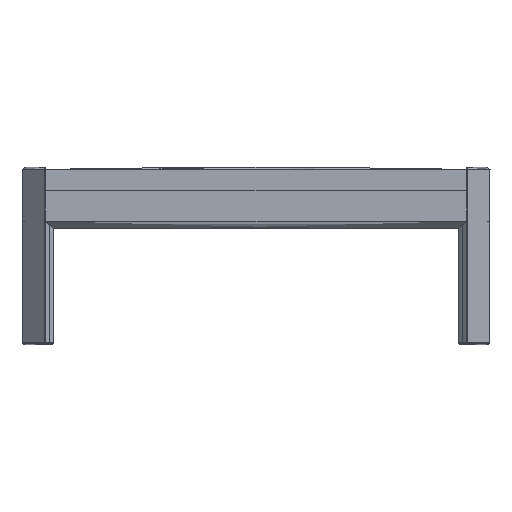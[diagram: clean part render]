
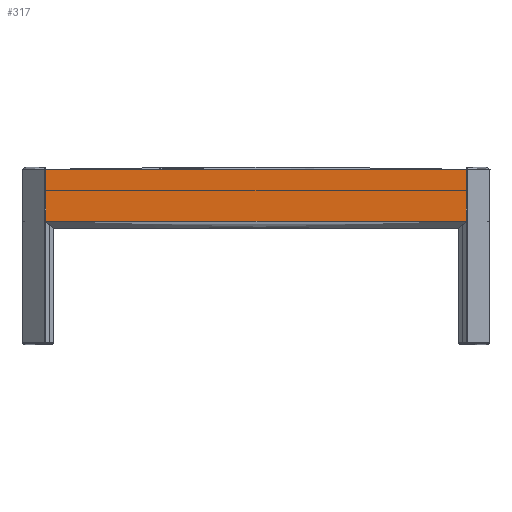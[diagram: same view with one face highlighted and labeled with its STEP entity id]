
A CAD part, front view. The second image highlights one B-rep face of the part: STEP entity #317.
In plain terms, the highlighted planar face has unit normal (0, -1, 0).
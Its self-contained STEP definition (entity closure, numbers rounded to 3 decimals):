
#317=ADVANCED_FACE('',(#629),#4739,.T.);
#629=FACE_OUTER_BOUND('',#945,.T.);
#945=EDGE_LOOP('',(#1835,#1836,#1837,#1838,#1839,#1840));
#1835=ORIENTED_EDGE('',*,*,#3002,.T.);
#1836=ORIENTED_EDGE('',*,*,#2994,.T.);
#1837=ORIENTED_EDGE('',*,*,#2974,.F.);
#1838=ORIENTED_EDGE('',*,*,#2988,.F.);
#1839=ORIENTED_EDGE('',*,*,#2995,.F.);
#1840=ORIENTED_EDGE('',*,*,#3007,.T.);
#2974=EDGE_CURVE('',#4363,#4364,#3970,.T.);
#2988=EDGE_CURVE('',#4376,#4363,#3980,.T.);
#2994=EDGE_CURVE('',#4385,#4364,#3611,.T.);
#2995=EDGE_CURVE('',#4379,#4376,#3983,.T.);
#3002=EDGE_CURVE('',#4384,#4385,#3987,.T.);
#3007=EDGE_CURVE('',#4379,#4384,#3991,.T.);
#3611=(
BOUNDED_CURVE()
B_SPLINE_CURVE(1,(#7173,#7174),.UNSPECIFIED.,.F.,.F.)
B_SPLINE_CURVE_WITH_KNOTS((2,2),(0.,818.4),.UNSPECIFIED.)
CURVE()
GEOMETRIC_REPRESENTATION_ITEM()
RATIONAL_B_SPLINE_CURVE((1.,1.))
REPRESENTATION_ITEM('')
);
#3970=B_SPLINE_CURVE_WITH_KNOTS('',1,(#7098,#7099),.UNSPECIFIED.,.F.,.F.,
(2,2),(0.,100.963),.UNSPECIFIED.);
#3980=B_SPLINE_CURVE_WITH_KNOTS('',1,(#7161,#7162),.UNSPECIFIED.,.F.,.F.,
(2,2),(0.,0.017),.UNSPECIFIED.);
#3983=B_SPLINE_CURVE_WITH_KNOTS('',1,(#7175,#7176),.UNSPECIFIED.,.F.,.F.,
(2,2),(-818.376,0.),.UNSPECIFIED.);
#3987=B_SPLINE_CURVE_WITH_KNOTS('',1,(#7194,#7195),.UNSPECIFIED.,.F.,.F.,
(2,2),(-100.963,0.),.UNSPECIFIED.);
#3991=B_SPLINE_CURVE_WITH_KNOTS('',1,(#7204,#7205),.UNSPECIFIED.,.F.,.F.,
(2,2),(-0.017,0.),.UNSPECIFIED.);
#4363=VERTEX_POINT('',#7071);
#4364=VERTEX_POINT('',#7072);
#4376=VERTEX_POINT('',#7084);
#4379=VERTEX_POINT('',#7087);
#4384=VERTEX_POINT('',#7092);
#4385=VERTEX_POINT('',#7093);
#4739=PLANE('',#5019);
#5019=AXIS2_PLACEMENT_3D('',#7049,#5282,$);
#5282=DIRECTION('',(0.,-1.,0.));
#7049=CARTESIAN_POINT('',(491.052,-1002.,348.514));
#7071=CARTESIAN_POINT('',(-409.2,-1002.,237.441));
#7072=CARTESIAN_POINT('',(-409.2,-1002.,338.404));
#7084=CARTESIAN_POINT('',(-409.188,-1002.,237.429));
#7087=CARTESIAN_POINT('',(409.188,-1002.,237.429));
#7092=CARTESIAN_POINT('',(409.2,-1002.,237.441));
#7093=CARTESIAN_POINT('',(409.2,-1002.,338.404));
#7098=CARTESIAN_POINT('',(-409.2,-1002.,237.441));
#7099=CARTESIAN_POINT('',(-409.2,-1002.,338.404));
#7161=CARTESIAN_POINT('',(-409.188,-1002.,237.429));
#7162=CARTESIAN_POINT('',(-409.2,-1002.,237.441));
#7173=CARTESIAN_POINT('',(409.2,-1002.,338.404));
#7174=CARTESIAN_POINT('',(-409.2,-1002.,338.404));
#7175=CARTESIAN_POINT('',(409.188,-1002.,237.429));
#7176=CARTESIAN_POINT('',(-409.188,-1002.,237.429));
#7194=CARTESIAN_POINT('',(409.2,-1002.,237.441));
#7195=CARTESIAN_POINT('',(409.2,-1002.,338.404));
#7204=CARTESIAN_POINT('',(409.188,-1002.,237.429));
#7205=CARTESIAN_POINT('',(409.2,-1002.,237.441));
